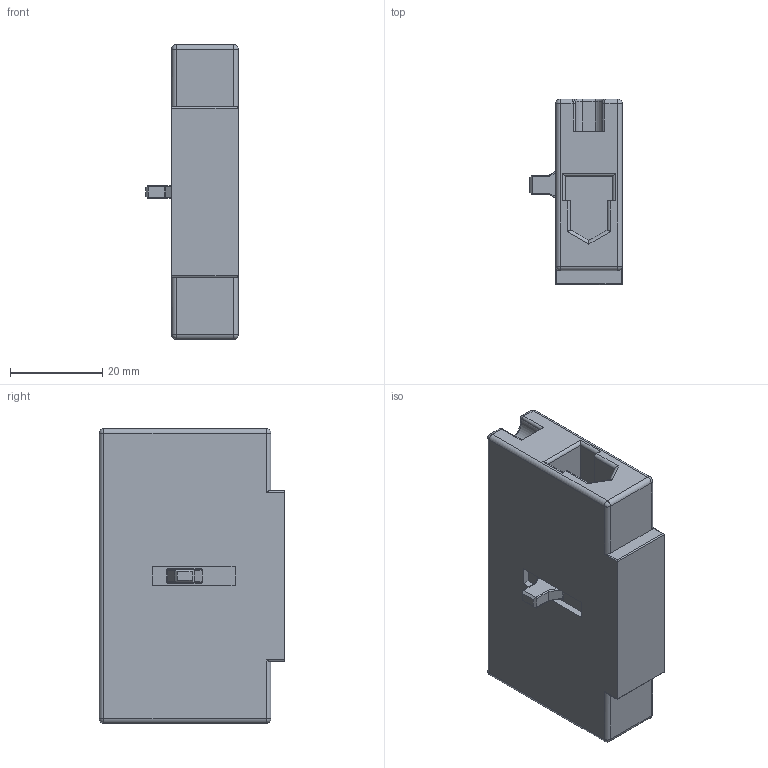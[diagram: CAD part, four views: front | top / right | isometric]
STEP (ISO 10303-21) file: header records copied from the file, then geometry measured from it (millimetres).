
FILE_DESCRIPTION (( 'STEP AP203' ), '1' );
FILE_NAME ('PEN80V.STEP', '2014-05-12T13:00:51', ( '' ), ( '' ), 'SwSTEP 2.0', 'SolidWorks 2014', '' );
FILE_SCHEMA (( 'CONFIG_CONTROL_DESIGN' ));
Length unit declared in the file: millimetre
Products named in the file (1): PEN80V
Bounding box: 20.1 x 40.3 x 64 mm (x, y, z)
Volume: 31168.8 mm3; surface area: 9961.3 mm2
Topology: 1 solids, 1 shells, 142 faces, 346 edges, 202 vertices
Faces by surface type: cylinder 64, plane 50, torus 8, bspline 8, sphere 8, cone 4
Entity records: 4323 total; most frequent: CARTESIAN_POINT 1057, ORIENTED_EDGE 676, DIRECTION 658, EDGE_CURVE 338, AXIS2_PLACEMENT_3D 231, VERTEX_POINT 202, VECTOR 196, LINE 196
